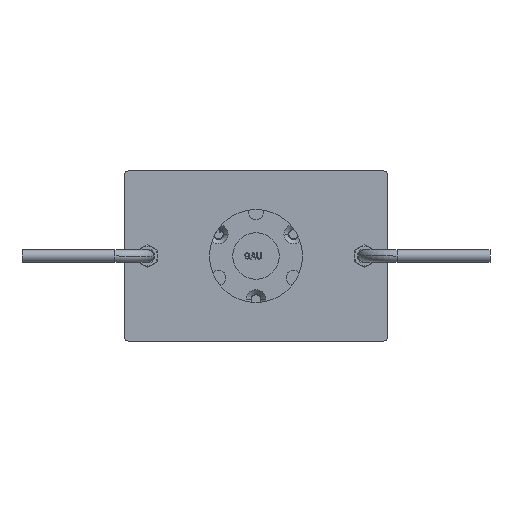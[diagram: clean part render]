
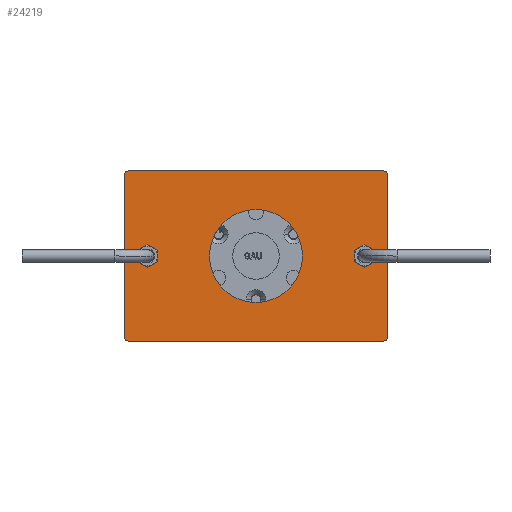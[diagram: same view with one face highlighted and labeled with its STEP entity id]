
A CAD part, front view. The second image highlights one B-rep face of the part: STEP entity #24219.
In plain terms, the highlighted planar face has unit normal (0, -1, 0) as drawn and (0, 0, 1) by its records, which use the part's own axes.
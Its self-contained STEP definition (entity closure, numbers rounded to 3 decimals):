
#23927=CARTESIAN_POINT('',(52.,82.,2.));
#23928=DIRECTION('',(0.,0.,1.));
#23929=DIRECTION('',(1.,0.,0.));
#23930=AXIS2_PLACEMENT_3D('',#23927,#23928,#23929);
#23932=DIRECTION('',(0.,1.,0.));
#23933=VECTOR('',#23932,164.);
#23934=CARTESIAN_POINT('',(55.,-82.,2.));
#23935=LINE('',#23934,#23933);
#23936=CARTESIAN_POINT('',(52.,-82.,2.));
#23937=DIRECTION('',(0.,0.,1.));
#23938=DIRECTION('',(0.,-1.,0.));
#23939=AXIS2_PLACEMENT_3D('',#23936,#23937,#23938);
#23941=DIRECTION('',(1.,0.,0.));
#23942=VECTOR('',#23941,104.);
#23943=CARTESIAN_POINT('',(-52.,-85.,2.));
#23944=LINE('',#23943,#23942);
#23945=CARTESIAN_POINT('',(-52.,-82.,2.));
#23946=DIRECTION('',(0.,0.,1.));
#23947=DIRECTION('',(-1.,0.,0.));
#23948=AXIS2_PLACEMENT_3D('',#23945,#23946,#23947);
#23950=DIRECTION('',(0.,-1.,0.));
#23951=VECTOR('',#23950,164.);
#23952=CARTESIAN_POINT('',(-55.,82.,2.));
#23953=LINE('',#23952,#23951);
#23954=CARTESIAN_POINT('',(-52.,82.,2.));
#23955=DIRECTION('',(0.,0.,1.));
#23956=DIRECTION('',(0.,1.,0.));
#23957=AXIS2_PLACEMENT_3D('',#23954,#23955,#23956);
#23959=DIRECTION('',(-1.,0.,0.));
#23960=VECTOR('',#23959,104.);
#23961=CARTESIAN_POINT('',(52.,85.,2.));
#23962=LINE('',#23961,#23960);
#23963=CARTESIAN_POINT('',(0.,70.,2.));
#23964=DIRECTION('',(0.,0.,-1.));
#23965=DIRECTION('',(1.,0.,0.));
#23966=AXIS2_PLACEMENT_3D('',#23963,#23964,#23965);
#23968=CARTESIAN_POINT('',(0.,70.,2.));
#23969=DIRECTION('',(0.,0.,-1.));
#23970=DIRECTION('',(-1.,0.,0.));
#23971=AXIS2_PLACEMENT_3D('',#23968,#23969,#23970);
#23973=CARTESIAN_POINT('',(0.,-70.,2.));
#23974=DIRECTION('',(0.,0.,-1.));
#23975=DIRECTION('',(1.,0.,0.));
#23976=AXIS2_PLACEMENT_3D('',#23973,#23974,#23975);
#23978=CARTESIAN_POINT('',(0.,-70.,2.));
#23979=DIRECTION('',(0.,0.,-1.));
#23980=DIRECTION('',(-1.,0.,0.));
#23981=AXIS2_PLACEMENT_3D('',#23978,#23979,#23980);
#23983=CARTESIAN_POINT('',(0.,0.,2.));
#23984=DIRECTION('',(0.,0.,-1.));
#23985=DIRECTION('',(1.,0.,0.));
#23986=AXIS2_PLACEMENT_3D('',#23983,#23984,#23985);
#23988=CARTESIAN_POINT('',(0.,0.,2.));
#23989=DIRECTION('',(0.,0.,-1.));
#23990=DIRECTION('',(-1.,0.,0.));
#23991=AXIS2_PLACEMENT_3D('',#23988,#23989,#23990);
#24107=CARTESIAN_POINT('',(-30.,0.,2.));
#24108=CARTESIAN_POINT('',(30.,0.,2.));
#24109=VERTEX_POINT('',#24107);
#24110=VERTEX_POINT('',#24108);
#24111=CARTESIAN_POINT('',(52.,-85.,2.));
#24112=CARTESIAN_POINT('',(55.,-82.,2.));
#24113=VERTEX_POINT('',#24111);
#24114=VERTEX_POINT('',#24112);
#24116=CARTESIAN_POINT('',(-52.,-85.,2.));
#24118=VERTEX_POINT('',#24116);
#24126=CARTESIAN_POINT('',(52.,85.,2.));
#24128=VERTEX_POINT('',#24126);
#24131=CARTESIAN_POINT('',(55.,82.,2.));
#24132=VERTEX_POINT('',#24131);
#24133=CARTESIAN_POINT('',(-55.,82.,2.));
#24134=CARTESIAN_POINT('',(-55.,-82.,2.));
#24135=VERTEX_POINT('',#24133);
#24136=VERTEX_POINT('',#24134);
#24139=CARTESIAN_POINT('',(-52.,85.,2.));
#24140=VERTEX_POINT('',#24139);
#24149=CARTESIAN_POINT('',(-4.1,-70.,2.));
#24150=VERTEX_POINT('',#24149);
#24151=CARTESIAN_POINT('',(4.1,-70.,2.));
#24152=VERTEX_POINT('',#24151);
#24153=CARTESIAN_POINT('',(4.1,70.,2.));
#24154=CARTESIAN_POINT('',(-4.1,70.,2.));
#24155=VERTEX_POINT('',#24153);
#24156=VERTEX_POINT('',#24154);
#24179=CARTESIAN_POINT('',(0.,0.,2.));
#24180=DIRECTION('',(0.,0.,1.));
#24181=DIRECTION('',(1.,0.,0.));
#24182=AXIS2_PLACEMENT_3D('',#24179,#24180,#24181);
#24183=PLANE('',#24182);
#24185=ORIENTED_EDGE('',*,*,#24184,.F.);
#24187=ORIENTED_EDGE('',*,*,#24186,.F.);
#24188=ORIENTED_EDGE('',*,*,#24168,.F.);
#24190=ORIENTED_EDGE('',*,*,#24189,.F.);
#24192=ORIENTED_EDGE('',*,*,#24191,.F.);
#24194=ORIENTED_EDGE('',*,*,#24193,.F.);
#24196=ORIENTED_EDGE('',*,*,#24195,.F.);
#24198=ORIENTED_EDGE('',*,*,#24197,.F.);
#24199=EDGE_LOOP('',(#24185,#24187,#24188,#24190,#24192,#24194,#24196,#24198));
#24200=FACE_OUTER_BOUND('',#24199,.F.);
#24202=ORIENTED_EDGE('',*,*,#24201,.F.);
#24204=ORIENTED_EDGE('',*,*,#24203,.F.);
#24205=EDGE_LOOP('',(#24202,#24204));
#24206=FACE_BOUND('',#24205,.F.);
#24208=ORIENTED_EDGE('',*,*,#24207,.F.);
#24210=ORIENTED_EDGE('',*,*,#24209,.F.);
#24211=EDGE_LOOP('',(#24208,#24210));
#24212=FACE_BOUND('',#24211,.F.);
#24214=ORIENTED_EDGE('',*,*,#24213,.F.);
#24216=ORIENTED_EDGE('',*,*,#24215,.F.);
#24217=EDGE_LOOP('',(#24214,#24216));
#24218=FACE_BOUND('',#24217,.F.);
#24219=ADVANCED_FACE('',(#24200,#24206,#24212,#24218),#24183,.T.);
#23931=CIRCLE('',#23930,3.);
#23940=CIRCLE('',#23939,3.);
#23949=CIRCLE('',#23948,3.);
#23958=CIRCLE('',#23957,3.);
#23967=CIRCLE('',#23966,4.1);
#23972=CIRCLE('',#23971,4.1);
#23977=CIRCLE('',#23976,4.1);
#23982=CIRCLE('',#23981,4.1);
#23987=CIRCLE('',#23986,30.);
#23992=CIRCLE('',#23991,30.);
#24168=EDGE_CURVE('',#24113,#24114,#23940,.T.);
#24184=EDGE_CURVE('',#24132,#24128,#23931,.T.);
#24186=EDGE_CURVE('',#24114,#24132,#23935,.T.);
#24189=EDGE_CURVE('',#24118,#24113,#23944,.T.);
#24191=EDGE_CURVE('',#24136,#24118,#23949,.T.);
#24193=EDGE_CURVE('',#24135,#24136,#23953,.T.);
#24195=EDGE_CURVE('',#24140,#24135,#23958,.T.);
#24197=EDGE_CURVE('',#24128,#24140,#23962,.T.);
#24201=EDGE_CURVE('',#24155,#24156,#23967,.T.);
#24203=EDGE_CURVE('',#24156,#24155,#23972,.T.);
#24207=EDGE_CURVE('',#24152,#24150,#23977,.T.);
#24209=EDGE_CURVE('',#24150,#24152,#23982,.T.);
#24213=EDGE_CURVE('',#24110,#24109,#23987,.T.);
#24215=EDGE_CURVE('',#24109,#24110,#23992,.T.);
